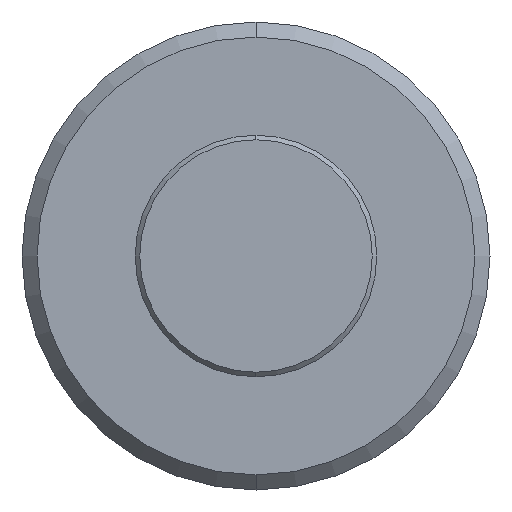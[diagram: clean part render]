
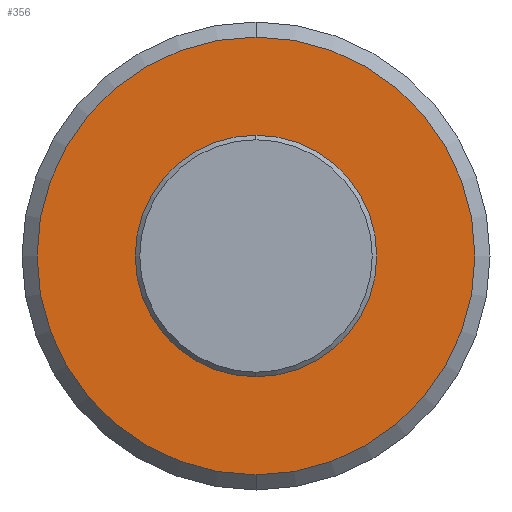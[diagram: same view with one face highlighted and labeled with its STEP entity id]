
A CAD part, left-side view. The second image highlights one B-rep face of the part: STEP entity #356.
In plain terms, the highlighted planar face has unit normal (-1, 0, 0).
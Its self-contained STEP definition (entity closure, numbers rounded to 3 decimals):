
#8 = VERTEX_POINT ( 'NONE', #292 ) ;
#60 = CARTESIAN_POINT ( 'NONE',  ( -24.026, 8., 0. ) ) ;
#70 = DIRECTION ( 'NONE',  ( 0., 0., -1. ) ) ;
#81 = VERTEX_POINT ( 'NONE', #428 ) ;
#83 = DIRECTION ( 'NONE',  ( 0., 0., 1. ) ) ;
#139 = CIRCLE ( 'NONE', #171, 14.5 ) ;
#166 = DIRECTION ( 'NONE',  ( -1., 0., 0. ) ) ;
#171 = AXIS2_PLACEMENT_3D ( 'NONE', #417, #467, #83 ) ;
#183 = CIRCLE ( 'NONE', #358, 14.5 ) ;
#186 = ORIENTED_EDGE ( 'NONE', *, *, #403, .T. ) ;
#207 = DIRECTION ( 'NONE',  ( 0., 0., 1. ) ) ;
#216 = CARTESIAN_POINT ( 'NONE',  ( -24.026, 0., 0. ) ) ;
#217 = AXIS2_PLACEMENT_3D ( 'NONE', #216, #614, #345 ) ;
#239 = ORIENTED_EDGE ( 'NONE', *, *, #342, .F. ) ;
#246 = VERTEX_POINT ( 'NONE', #491 ) ;
#271 = DIRECTION ( 'NONE',  ( -1., 0., 0. ) ) ;
#292 = CARTESIAN_POINT ( 'NONE',  ( -24.026, 0., -8. ) ) ;
#305 = ORIENTED_EDGE ( 'NONE', *, *, #369, .F. ) ;
#308 = PLANE ( 'NONE',  #319 ) ;
#319 = AXIS2_PLACEMENT_3D ( 'NONE', #60, #444, #70 ) ;
#326 = ORIENTED_EDGE ( 'NONE', *, *, #471, .T. ) ;
#342 = EDGE_CURVE ( 'NONE', #565, #8, #531, .T. ) ;
#344 = AXIS2_PLACEMENT_3D ( 'NONE', #566, #271, #562 ) ;
#345 = DIRECTION ( 'NONE',  ( 0., 0., 1. ) ) ;
#356 = ADVANCED_FACE ( 'NONE', ( #406, #375 ), #308, .F. ) ;
#358 = AXIS2_PLACEMENT_3D ( 'NONE', #502, #166, #207 ) ;
#369 = EDGE_CURVE ( 'NONE', #8, #565, #507, .T. ) ;
#375 = FACE_OUTER_BOUND ( 'NONE', #535, .T. ) ;
#403 = EDGE_CURVE ( 'NONE', #81, #246, #139, .T. ) ;
#406 = FACE_BOUND ( 'NONE', #579, .T. ) ;
#417 = CARTESIAN_POINT ( 'NONE',  ( -24.026, 0., 0. ) ) ;
#428 = CARTESIAN_POINT ( 'NONE',  ( -24.026, 0., -14.5 ) ) ;
#444 = DIRECTION ( 'NONE',  ( 1., 0., 0. ) ) ;
#467 = DIRECTION ( 'NONE',  ( -1., 0., 0. ) ) ;
#471 = EDGE_CURVE ( 'NONE', #246, #81, #183, .T. ) ;
#491 = CARTESIAN_POINT ( 'NONE',  ( -24.026, 0., 14.5 ) ) ;
#502 = CARTESIAN_POINT ( 'NONE',  ( -24.026, 0., 0. ) ) ;
#507 = CIRCLE ( 'NONE', #344, 8. ) ;
#531 = CIRCLE ( 'NONE', #217, 8. ) ;
#535 = EDGE_LOOP ( 'NONE', ( #186, #326 ) ) ;
#562 = DIRECTION ( 'NONE',  ( 0., 0., 1. ) ) ;
#565 = VERTEX_POINT ( 'NONE', #611 ) ;
#566 = CARTESIAN_POINT ( 'NONE',  ( -24.026, 0., 0. ) ) ;
#579 = EDGE_LOOP ( 'NONE', ( #239, #305 ) ) ;
#611 = CARTESIAN_POINT ( 'NONE',  ( -24.026, 0., 8. ) ) ;
#614 = DIRECTION ( 'NONE',  ( -1., 0., 0. ) ) ;
